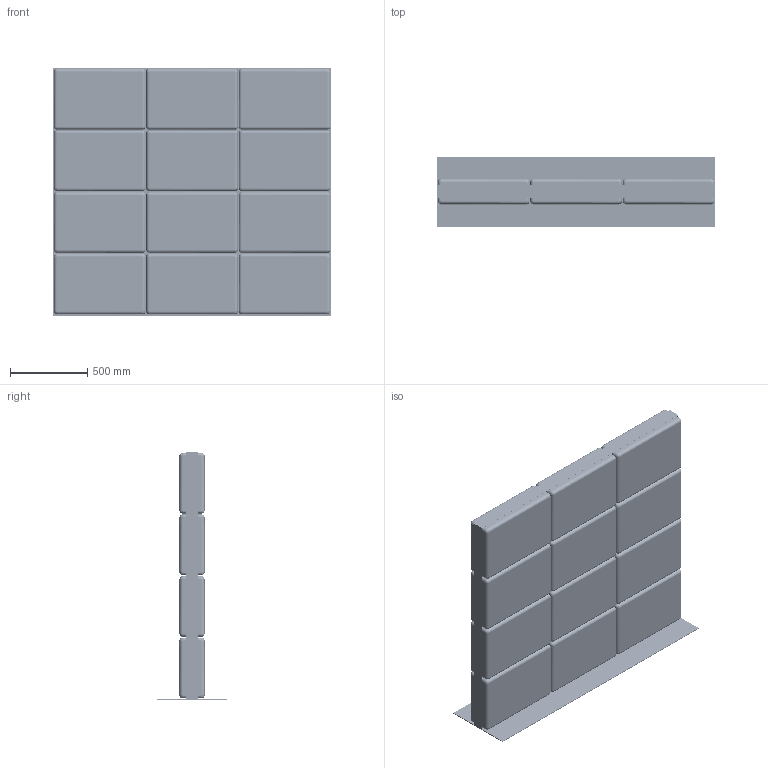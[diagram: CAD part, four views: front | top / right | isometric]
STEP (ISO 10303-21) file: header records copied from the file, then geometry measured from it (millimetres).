
FILE_DESCRIPTION(/* description */ (''),/* implementation_level */ '2;1');
FILE_NAME(/* name */ 'MOSSwall_FREESTANDING ',/* time_stamp */ '2023-07-19T17:44:48+02:00',/* author */ (''),/* organization */ (''),/* preprocessor_version */ 'ST-DEVELOPER v16.5',/* originating_system */ 'Rhino 7.20',/* authorisation */ '');
FILE_SCHEMA (('CONFIG_CONTROL_DESIGN'));
Products named in the file (1): Document
Bounding box: 1802 x 450 x 1607.1 mm (x, y, z)
Volume: 312307888.7 mm3; surface area: 27425460.2 mm2
Topology: 135 solids, 167 shells, 33674 faces, 98633 edges, 65401 vertices
Faces by surface type: plane 30218, bspline 3072, cylinder 384
Full cylindrical faces by diameter (mm): 5.5 x96, 7.6 x96
Entity records: 1150243 total; most frequent: CARTESIAN_POINT 494227, ORIENTED_EDGE 195352, EDGE_CURVE 98248, B_SPLINE_CURVE_WITH_KNOTS 95225, VERTEX_POINT 65016, EDGE_LOOP 36978, ADVANCED_FACE 33674, FACE_OUTER_BOUND 33674
